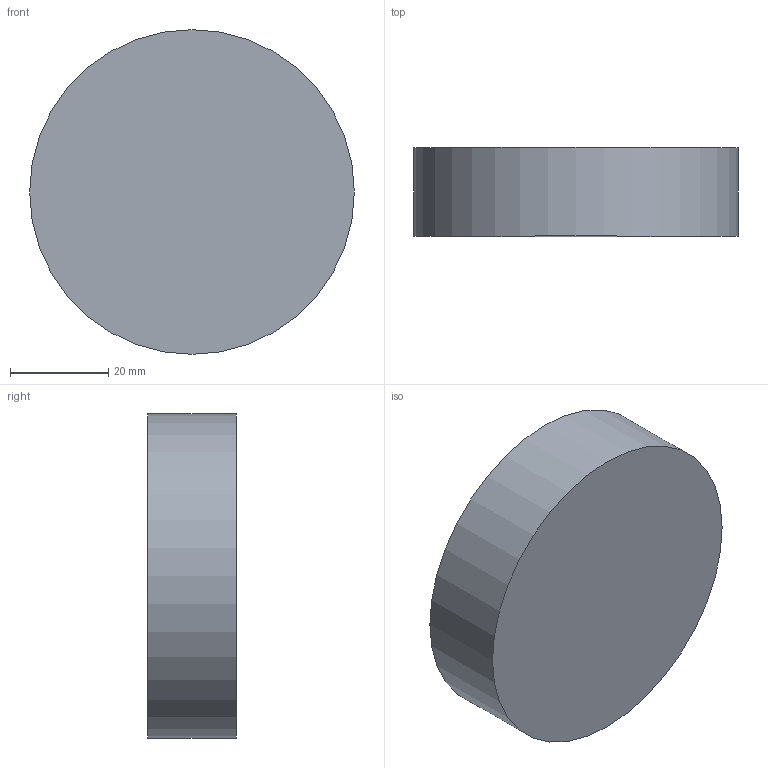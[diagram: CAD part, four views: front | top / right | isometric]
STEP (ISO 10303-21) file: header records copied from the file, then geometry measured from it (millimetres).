
FILE_DESCRIPTION(('Open CASCADE Model'),'2;1');
FILE_NAME('Open CASCADE Shape Model','2026-10-10T15:34:57',('Author'),( 'Open CASCADE'),'Open CASCADE STEP processor 7.9','Open CASCADE 7.9' ,'Unknown');
FILE_SCHEMA(('AUTOMOTIVE_DESIGN { 1 0 10303 214 1 1 1 1 }'));
Length unit declared in the file: millimetre
Products named in the file (1): Open CASCADE STEP translator 7.9 13
Bounding box: 66 x 18 x 66 mm (x, y, z)
Volume: 61581.5 mm3; surface area: 10574.6 mm2
Topology: 1 solids, 1 shells, 3 faces, 3 edges, 2 vertices
Faces by surface type: plane 2, cylinder 1
Full cylindrical faces by diameter (mm): 66 x1
Entity records: 108 total; most frequent: DIRECTION 19, CARTESIAN_POINT 15, AXIS2_PLACEMENT_3D 6, ORIENTED_EDGE 6, PCURVE 6, DEFINITIONAL_REPRESENTATION 6, LINE 5, VECTOR 5
